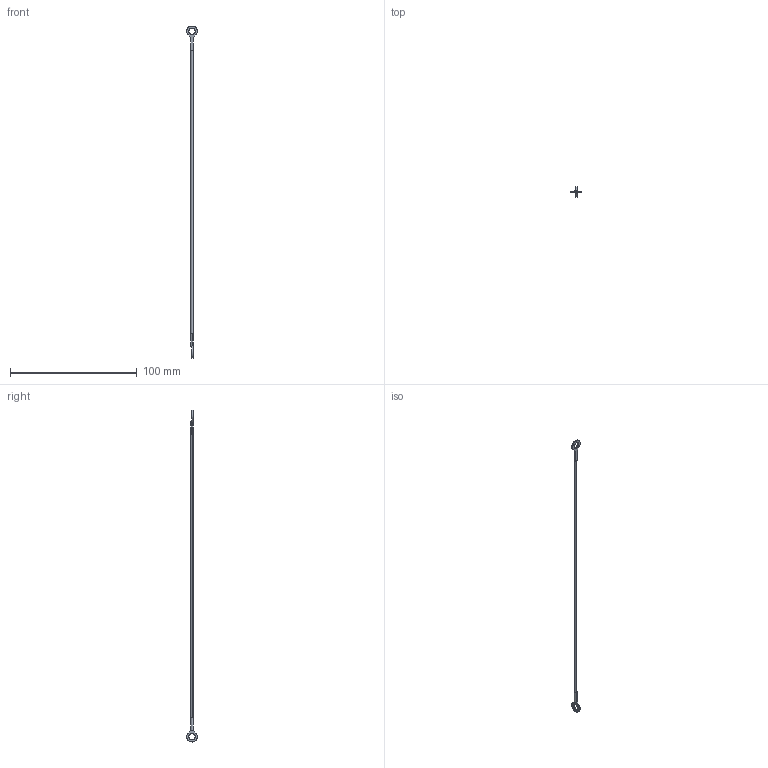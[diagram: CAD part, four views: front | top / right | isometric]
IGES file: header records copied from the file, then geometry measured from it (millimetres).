
Start section: SolidWorks IGES file using analytic representation for surfaces
Global section: file name: C:\Users\ianosborn\Desktop\LA1070_v2\LA1070_v2_20260323_IGES\LA1070.I04-254N1.igs; native system: SolidWorks 2019; preprocessor: SolidWorks 2019; author: IanOsborn; date: 260323.144801; units: millimetre
Bounding box: 8.38 x 8.38 x 262.38 mm (x, y, z)
Surface area: 1503.2 mm2 (no closed solid volume)
Topology: 0 solids, 0 shells, 27 faces, 430 edges, 430 vertices
Faces by surface type: bspline 16, revolution 11
